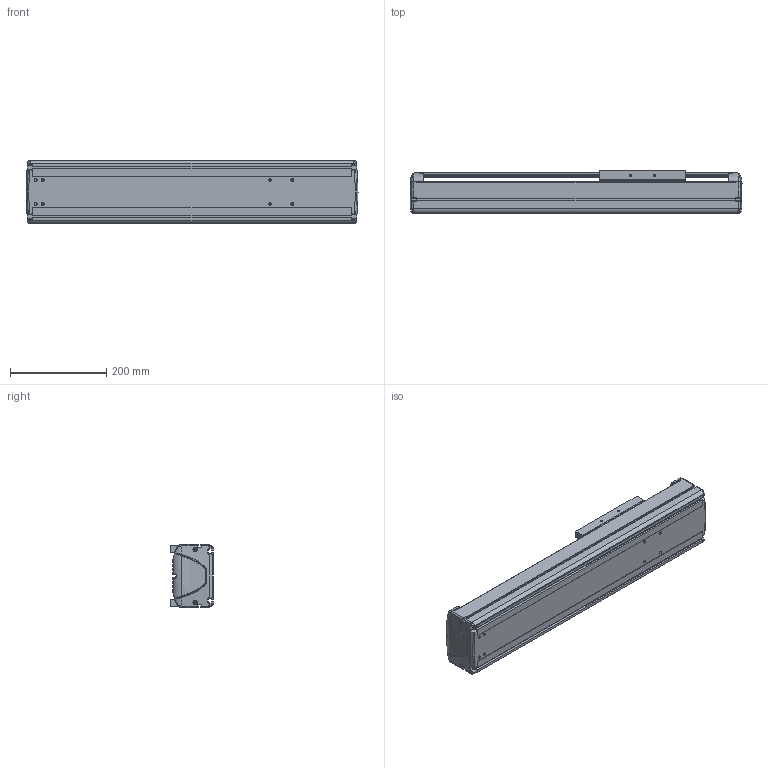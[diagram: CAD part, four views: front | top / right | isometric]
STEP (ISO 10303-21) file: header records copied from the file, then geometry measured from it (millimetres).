
FILE_DESCRIPTION((''),'2;1');
FILE_NAME('BE30E-ST-L_N-35_IGS_PRT','2017-06-17T',(' '),(''),'PRO/ENGINEER BY PARAMETRIC TECHNOLOGY CORPORATION, 2015030','PRO/ENGINEER BY PARAMETRIC TECHNOLOGY CORPORATION, 2015030','');
FILE_SCHEMA(('CONFIG_CONTROL_DESIGN'));
Length unit declared in the file: millimetre
Products named in the file (1): BE30E-ST-L_N-35_IGS_PRT
Bounding box: 690 x 89.8 x 130 mm (x, y, z)
Volume: 2449471.3 mm3; surface area: 881585.3 mm2
Topology: 2 solids, 72 shells, 1323 faces, 3544 edges, 2306 vertices
Faces by surface type: plane 606, cylinder 559, bspline 58, torus 46, cone 30, sphere 24
Entity records: 44338 total; most frequent: CARTESIAN_POINT 11207, DIRECTION 6814, ORIENTED_EDGE 6769, EDGE_CURVE 3524, AXIS2_PLACEMENT_3D 2437, VERTEX_POINT 2306, VECTOR 1940, LINE 1940
